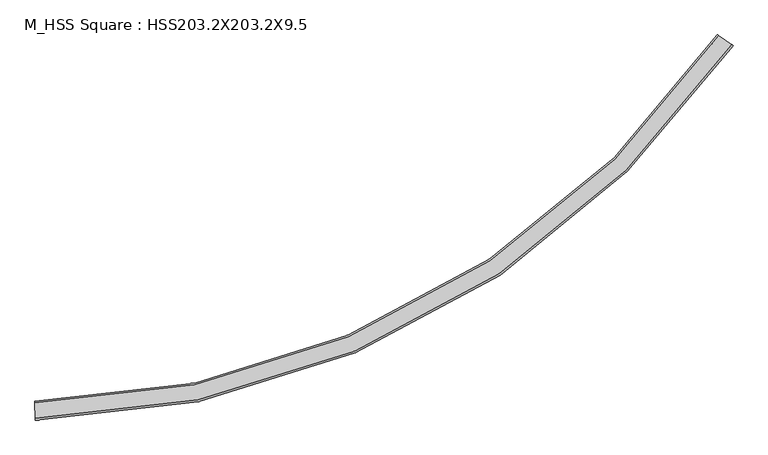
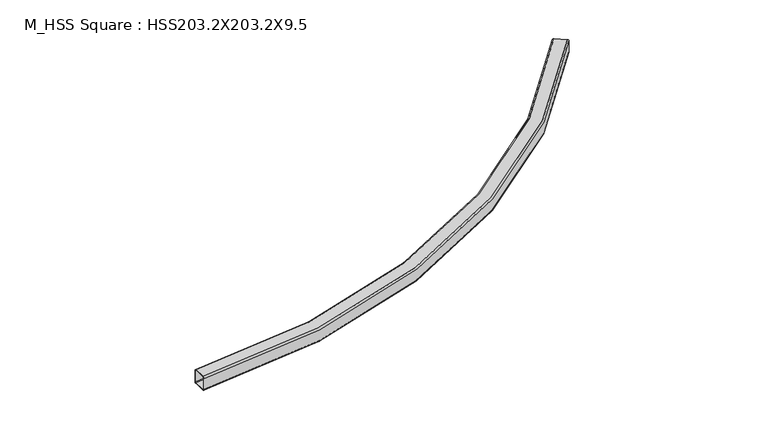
"""IFC4 building model written with IfcOpenShell, lengths in millimetres: beam geometry, M_HSS Square : HSS203.2X203.2X9.5."""

from ifc_helpers import new_model, si_unit, point, frame, origin, place, context, project, spatial, polyline, circle_curve, ellipse_curve, trimmed, source, transform, mapped, element, save
from ifc_brep_helpers import plane_surface, cylinder_surface, revolved_surface, advanced_brep


def m_hss_square_hss203_2x203_2x9_5_d5f1e8c4(model_context):
    return source(origin(), model_context, "Body", "AdvancedBrep", [
        advanced_brep(
        [(160.45229, -100.1076859, 82.44), (160.1215311, -81.0505561, 101.5), (157.2602761, 83.8046156, 101.5), (156.9295173, 102.8617454, 82.44), (156.9295173, 102.8617454, -82.44), (157.2602761, 83.8046156, -101.5), (160.1215311, -81.0505561, -101.5), (160.45229, -100.1076859, -82.44), (157.2602761, 83.8046156, 91.97), (160.1215311, -81.0505561, 91.97), (160.2869106, -90.579121, 82.44), (160.2869106, -90.579121, -82.44), (160.1215311, -81.0505561, -91.97), (157.2602761, 83.8046156, -91.97), (157.0948967, 93.3331805, -82.44), (157.0948967, 93.3331805, 82.44), (7613.4971345, 3898.1904134, 82.44), (7613.4971345, 3898.1904134, -82.44), (7597.8025526, 3909.0053891, -101.5), (7462.0353617, 4002.5611708, -101.5), (7446.3407799, 4013.3761465, -82.44), (7446.3407799, 4013.3761465, 82.44), (7462.0353617, 4002.5611708, 101.5), (7597.8025526, 3909.0053891, 101.5), (7462.0353617, 4002.5611708, 91.97), (7454.1880708, 4007.9686587, 82.44), (7454.1880708, 4007.9686587, -82.44), (7462.0353617, 4002.5611708, -91.97), (7597.8025526, 3909.0053891, -91.97), (7605.6498435, 3903.5979012, -82.44), (7605.6498435, 3903.5979012, 82.44), (7597.8025526, 3909.0053891, 91.97)],
        [
            (0, 1, circle_curve(frame((160.1215311, -81.0505561, 82.44), z_axis=(-0.9998494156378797, -0.017353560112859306, 0.0), x_axis=(-0.017353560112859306, 0.9998494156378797, 0.0)), 19.06)),
            (1, 2),
            (2, 3, circle_curve(frame((157.2602761, 83.8046156, 82.44), z_axis=(-0.9998494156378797, -0.017353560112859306, 0.0), x_axis=(-0.017353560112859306, 0.9998494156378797, 0.0)), 19.06)),
            (3, 4),
            (4, 5, circle_curve(frame((157.2602761, 83.8046156, -82.44), z_axis=(-0.9998494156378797, -0.017353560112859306, 0.0), x_axis=(-0.017353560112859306, 0.9998494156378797, 0.0)), 19.06)),
            (5, 6),
            (6, 7, circle_curve(frame((160.1215311, -81.0505561, -82.44), z_axis=(-0.9998494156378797, -0.017353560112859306, 0.0), x_axis=(-0.017353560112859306, 0.9998494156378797, 0.0)), 19.06)),
            (7, 0),
            (8, 9),
            (9, 10, circle_curve(frame((160.1215311, -81.0505561, 82.44), z_axis=(0.9998494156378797, 0.017353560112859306, 0.0), x_axis=(-0.017353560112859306, 0.9998494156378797, 0.0)), 9.53)),
            (10, 11),
            (11, 12, circle_curve(frame((160.1215311, -81.0505561, -82.44), z_axis=(0.9998494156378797, 0.017353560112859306, 0.0), x_axis=(-0.017353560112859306, 0.9998494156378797, 0.0)), 9.53)),
            (12, 13),
            (13, 14, circle_curve(frame((157.2602761, 83.8046156, -82.44), z_axis=(0.9998494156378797, 0.017353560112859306, 0.0), x_axis=(-0.017353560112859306, 0.9998494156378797, 0.0)), 9.53)),
            (14, 15),
            (15, 8, circle_curve(frame((157.2602761, 83.8046156, 82.44), z_axis=(0.9998494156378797, 0.017353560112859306, 0.0), x_axis=(-0.017353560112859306, 0.9998494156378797, 0.0)), 9.53)),
            (16, 17),
            (17, 18, circle_curve(frame((7597.8025526, 3909.0053891, -82.44), z_axis=(0.567417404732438, 0.8234303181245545, 0.0), x_axis=(-0.8234303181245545, 0.567417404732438, 0.0)), 19.06)),
            (18, 19),
            (19, 20, circle_curve(frame((7462.0353617, 4002.5611708, -82.44), z_axis=(0.567417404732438, 0.8234303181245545, 0.0), x_axis=(-0.8234303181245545, 0.567417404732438, 0.0)), 19.06)),
            (20, 21),
            (21, 22, circle_curve(frame((7462.0353617, 4002.5611708, 82.44), z_axis=(0.567417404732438, 0.8234303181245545, 0.0), x_axis=(-0.8234303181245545, 0.567417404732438, 0.0)), 19.06)),
            (22, 23),
            (23, 16, circle_curve(frame((7597.8025526, 3909.0053891, 82.44), z_axis=(0.567417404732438, 0.8234303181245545, 0.0), x_axis=(-0.8234303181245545, 0.567417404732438, 0.0)), 19.06)),
            (24, 25, circle_curve(frame((7462.0353617, 4002.5611708, 82.44), z_axis=(-0.567417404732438, -0.8234303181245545, 0.0), x_axis=(-0.8234303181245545, 0.567417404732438, 0.0)), 9.53)),
            (25, 26),
            (26, 27, circle_curve(frame((7462.0353617, 4002.5611708, -82.44), z_axis=(-0.567417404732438, -0.8234303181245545, 0.0), x_axis=(-0.8234303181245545, 0.567417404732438, 0.0)), 9.53)),
            (27, 28),
            (28, 29, circle_curve(frame((7597.8025526, 3909.0053891, -82.44), z_axis=(-0.567417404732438, -0.8234303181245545, 0.0), x_axis=(-0.8234303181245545, 0.567417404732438, 0.0)), 9.53)),
            (29, 30),
            (30, 31, circle_curve(frame((7597.8025526, 3909.0053891, 82.44), z_axis=(-0.567417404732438, -0.8234303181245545, 0.0), x_axis=(-0.8234303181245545, 0.567417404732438, 0.0)), 9.53)),
            (31, 24),
            (0, 16, circle_curve(frame((0.0, 9144.5733676, 82.44), z_axis=(0.0, 0.0, 1.0), x_axis=(-0.9999997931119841, -0.0006432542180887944, 0.0)), 9246.0733676)),
            (23, 1, circle_curve(frame((0.0, 9144.5733676, 101.5), z_axis=(0.0, 0.0, -1.0), x_axis=(-0.9999997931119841, -0.0006432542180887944, 0.0)), 9227.0133676)),
            (22, 2, circle_curve(frame((0.0, 9144.5733676, 101.5), z_axis=(0.0, 0.0, -1.0), x_axis=(-0.9999997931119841, -0.0006432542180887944, 0.0)), 9062.1333676)),
            (21, 3, circle_curve(frame((0.0, 9144.5733676, 82.44), z_axis=(0.0, 0.0, -1.0), x_axis=(-0.9999997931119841, -0.0006432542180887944, 0.0)), 9043.0733676)),
            (20, 4, circle_curve(frame((0.0, 9144.5733676, -82.44), z_axis=(0.0, 0.0, -1.0), x_axis=(-0.9999997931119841, -0.0006432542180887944, 0.0)), 9043.0733676)),
            (19, 5, circle_curve(frame((0.0, 9144.5733676, -101.5), z_axis=(0.0, 0.0, -1.0), x_axis=(-0.9999997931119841, -0.0006432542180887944, 0.0)), 9062.1333676)),
            (18, 6, circle_curve(frame((0.0, 9144.5733676, -101.5), z_axis=(0.0, 0.0, -1.0), x_axis=(-0.9999997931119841, -0.0006432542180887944, 0.0)), 9227.0133676)),
            (17, 7, circle_curve(frame((0.0, 9144.5733676, -82.44), z_axis=(0.0, 0.0, -1.0), x_axis=(-0.9999997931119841, -0.0006432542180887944, 0.0)), 9246.0733676)),
            (8, 24, circle_curve(frame((0.0, 9144.5733676, 91.97), z_axis=(0.0, 0.0, 1.0), x_axis=(-0.9999997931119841, -0.0006432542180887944, 0.0)), 9062.1333676)),
            (31, 9, circle_curve(frame((0.0, 9144.5733676, 91.97), z_axis=(0.0, 0.0, -1.0), x_axis=(-0.9999997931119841, -0.0006432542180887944, 0.0)), 9227.0133676)),
            (30, 10, circle_curve(frame((0.0, 9144.5733676, 82.44), z_axis=(0.0, 0.0, -1.0), x_axis=(-0.9999997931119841, -0.0006432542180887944, 0.0)), 9236.5433676)),
            (29, 11, circle_curve(frame((0.0, 9144.5733676, -82.44), z_axis=(0.0, 0.0, -1.0), x_axis=(-0.9999997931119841, -0.0006432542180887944, 0.0)), 9236.5433676)),
            (28, 12, circle_curve(frame((0.0, 9144.5733676, -91.97), z_axis=(0.0, 0.0, -1.0), x_axis=(-0.9999997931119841, -0.0006432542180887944, 0.0)), 9227.0133676)),
            (27, 13, circle_curve(frame((0.0, 9144.5733676, -91.97), z_axis=(0.0, 0.0, -1.0), x_axis=(-0.9999997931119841, -0.0006432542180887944, 0.0)), 9062.1333676)),
            (26, 14, circle_curve(frame((0.0, 9144.5733676, -82.44), z_axis=(0.0, 0.0, -1.0), x_axis=(-0.9999997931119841, -0.0006432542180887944, 0.0)), 9052.6033676)),
            (25, 15, circle_curve(frame((0.0, 9144.5733676, 82.44), z_axis=(0.0, 0.0, -1.0), x_axis=(-0.9999997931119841, -0.0006432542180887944, 0.0)), 9052.6033676)),
        ],
        [
            plane_surface(frame((158.6909036, 1.3770297, 0.0), z_axis=(-0.9998494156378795, -0.01735356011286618, 0.0), x_axis=(0.0, 0.0, 1.0))),
            plane_surface(frame((7529.9189572, 3955.78328, 0.0), z_axis=(0.5674174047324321, 0.8234303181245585, 0.0), x_axis=(0.0, 0.0, 1.0))),
            revolved_surface(trimmed(ellipse_curve(frame((-9227.0114586, 9138.6380523, 82.44), z_axis=(-0.0006432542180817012, 0.9999997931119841, 0.0), x_axis=(0.9999997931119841, 0.0006432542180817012, 0.0)), 19.06, 19.06), [point((-9246.0714547, 9138.6257919, 82.44))], [point((-9227.0114586, 9138.6380523, 101.5))], True, "CARTESIAN"), (0.0, 9144.5733676, 0.0), (0.0, 0.0, 1.0)),
            plane_surface(frame((0.0, 9144.5733676, 101.5), z_axis=(0.0, 0.0, 1.0), x_axis=(-0.9999997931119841, -0.0006432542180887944, 0.0))),
            revolved_surface(trimmed(ellipse_curve(frame((-9062.1314927, 9138.7441121, 82.44), z_axis=(-0.0006432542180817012, 0.9999997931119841, 0.0), x_axis=(0.9999997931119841, 0.0006432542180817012, 0.0)), 19.06, 19.06), [point((-9062.1314927, 9138.7441121, 101.5))], [point((-9043.0714967, 9138.7563725, 82.44))], True, "CARTESIAN"), (0.0, 9144.5733676, 0.0), (0.0, 0.0, 1.0)),
            revolved_surface(polyline([(-9043.071496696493, 9138.756372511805, 82.44), (-9043.071496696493, 9138.756372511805, -82.44)]), (0.0, 9144.5733676, 0.0), (0.0, 0.0, 1.0)),
            revolved_surface(trimmed(ellipse_curve(frame((-9062.1314927, 9138.7441121, -82.44), z_axis=(-0.0006432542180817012, 0.9999997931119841, 0.0), x_axis=(0.9999997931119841, 0.0006432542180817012, 0.0)), 19.06, 19.06), [point((-9043.0714967, 9138.7563725, -82.44))], [point((-9062.1314927, 9138.7441121, -101.5))], True, "CARTESIAN"), (0.0, 9144.5733676, 0.0), (0.0, 0.0, 1.0)),
            plane_surface(frame((0.0, 9144.5733676, -101.5), z_axis=(0.0, 0.0, -1.0), x_axis=(-0.9999997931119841, -0.0006432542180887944, 0.0))),
            revolved_surface(trimmed(ellipse_curve(frame((-9227.0114586, 9138.6380523, -82.44), z_axis=(-0.0006432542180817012, 0.9999997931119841, 0.0), x_axis=(0.9999997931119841, 0.0006432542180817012, 0.0)), 19.06, 19.06), [point((-9227.0114586, 9138.6380523, -101.5))], [point((-9246.0714547, 9138.6257919, -82.44))], True, "CARTESIAN"), (0.0, 9144.5733676, 0.0), (0.0, 0.0, 1.0)),
            cylinder_surface(frame((0.0, 9144.5733676, 0.0), z_axis=(0.0, 0.0, 1.0), x_axis=(-0.9999997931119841, -0.0006432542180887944, 0.0)), 9246.0733676),
            plane_surface(frame((0.0, 9144.5733676, 91.97), z_axis=(0.0, 0.0, -1.0), x_axis=(-0.9999997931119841, -0.0006432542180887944, 0.0))),
            revolved_surface(trimmed(ellipse_curve(frame((-9227.0114586, 9138.6380523, 82.44), z_axis=(0.0006432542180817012, -0.9999997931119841, 0.0), x_axis=(0.9999997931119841, 0.0006432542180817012, 0.0)), 9.53, 9.53), [point((-9227.0114586, 9138.6380523, 91.97))], [point((-9236.5414566, 9138.6319221, 82.44))], True, "CARTESIAN"), (0.0, 9144.5733676, 0.0), (0.0, 0.0, 1.0)),
            revolved_surface(polyline([(-9236.541456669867, 9138.631922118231, 82.44), (-9236.541456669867, 9138.631922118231, -82.44)]), (0.0, 9144.5733676, 0.0), (0.0, 0.0, 1.0)),
            revolved_surface(trimmed(ellipse_curve(frame((-9227.0114586, 9138.6380523, -82.44), z_axis=(0.0006432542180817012, -0.9999997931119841, 0.0), x_axis=(0.9999997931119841, 0.0006432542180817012, 0.0)), 9.53, 9.53), [point((-9236.5414566, 9138.6319221, -82.44))], [point((-9227.0114586, 9138.6380523, -91.97))], True, "CARTESIAN"), (0.0, 9144.5733676, 0.0), (0.0, 0.0, 1.0)),
            plane_surface(frame((0.0, 9144.5733676, -91.97), z_axis=(0.0, 0.0, 1.0), x_axis=(-0.9999997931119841, -0.0006432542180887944, 0.0))),
            revolved_surface(trimmed(ellipse_curve(frame((-9062.1314927, 9138.7441121, -82.44), z_axis=(0.0006432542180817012, -0.9999997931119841, 0.0), x_axis=(0.9999997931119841, 0.0006432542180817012, 0.0)), 9.53, 9.53), [point((-9062.1314927, 9138.7441121, -91.97))], [point((-9052.6014947, 9138.7502423, -82.44))], True, "CARTESIAN"), (0.0, 9144.5733676, 0.0), (0.0, 0.0, 1.0)),
            cylinder_surface(frame((0.0, 9144.5733676, 0.0), z_axis=(0.0, 0.0, 1.0), x_axis=(-0.9999997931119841, -0.0006432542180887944, 0.0)), 9052.6033676),
            revolved_surface(trimmed(ellipse_curve(frame((-9062.1314927, 9138.7441121, 82.44), z_axis=(0.0006432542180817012, -0.9999997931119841, 0.0), x_axis=(0.9999997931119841, 0.0006432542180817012, 0.0)), 9.53, 9.53), [point((-9052.6014947, 9138.7502423, 82.44))], [point((-9062.1314927, 9138.7441121, 91.97))], True, "CARTESIAN"), (0.0, 9144.5733676, 0.0), (0.0, 0.0, 1.0)),
        ],
        [
            (0, [[1, 2, 3, 4, 5, 6, 7, 8], [9, 10, 11, 12, 13, 14, 15, 16]]),
            (1, [[17, 18, 19, 20, 21, 22, 23, 24], [25, 26, 27, 28, 29, 30, 31, 32]]),
            (2, [[-1, 33, -24, 34]]),
            (3, [[-2, -34, -23, 35]]),
            (4, [[-3, -35, -22, 36]]),
            (5, [[-4, -36, -21, 37]]),
            (6, [[-5, -37, -20, 38]]),
            (7, [[-6, -38, -19, 39]]),
            (8, [[-7, -39, -18, 40]]),
            (9, [[-8, -40, -17, -33]]),
            (10, [[-9, 41, -32, 42]]),
            (11, [[-10, -42, -31, 43]]),
            (12, [[-11, -43, -30, 44]]),
            (13, [[-12, -44, -29, 45]]),
            (14, [[-13, -45, -28, 46]]),
            (15, [[-14, -46, -27, 47]]),
            (16, [[-15, -47, -26, 48]]),
            (17, [[-16, -48, -25, -41]]),
        ],
    ),
    ])


if __name__ == "__main__":
    model = new_model("IFC4")
    model_context = context("Model", 3, world=origin())
    ifc_project = project(units=[si_unit("LENGTHUNIT", "METRE", prefix="MILLI")], contexts=[model_context])
    site = spatial("IfcSite", under=ifc_project)
    building = spatial("IfcBuilding", under=site)
    placement = place(None, origin())
    m_hss_square_hss203_2x203_2x9_5_shape = m_hss_square_hss203_2x203_2x9_5_d5f1e8c4(model_context)
    element("IfcBeam", 1, ObjectType="M_HSS Square : HSS203.2X203.2X9.5", at=placement, inside=building, context=model_context, shape_type="MappedRepresentation", body=[
        mapped(m_hss_square_hss203_2x203_2x9_5_shape, transform((0.0, 0.0, 0.0), x_axis=(1.0, 0.0, 0.0), y_axis=(0.0, 1.0, 0.0), z_axis=(0.0, 0.0, 1.0))),
    ])
    save(model, "model.ifc")
